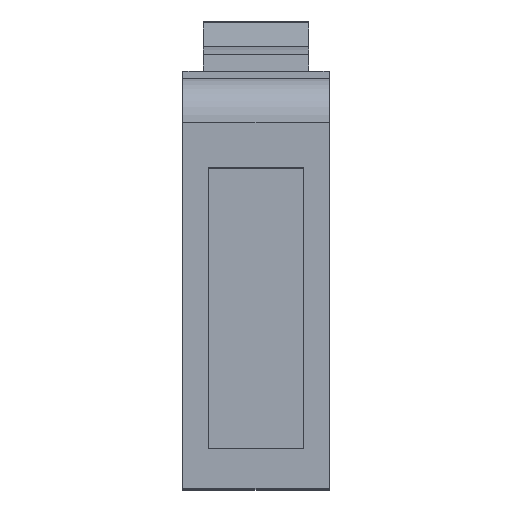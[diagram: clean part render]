
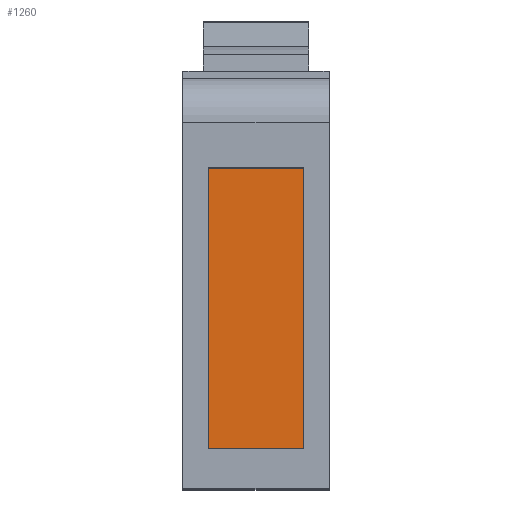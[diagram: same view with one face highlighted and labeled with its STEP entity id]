
A CAD part, top view. The second image highlights one B-rep face of the part: STEP entity #1260.
In plain terms, the highlighted planar face has unit normal (0, 0, 1).
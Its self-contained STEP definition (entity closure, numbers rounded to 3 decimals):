
#1171 = VERTEX_POINT ( 'NONE', #3416 ) ;
#1191 = EDGE_CURVE ( 'NONE', #1267, #4948, #3384, .T. ) ;
#1196 = EDGE_CURVE ( 'NONE', #1171, #1267, #3408, .T. ) ;
#1201 = EDGE_CURVE ( 'NONE', #4948, #1215, #3428, .T. ) ;
#1213 = EDGE_CURVE ( 'NONE', #1215, #1171, #3431, .T. ) ;
#1215 = VERTEX_POINT ( 'NONE', #3425 ) ;
#1237 = ORIENTED_EDGE ( 'NONE', *, *, #1191, .T. ) ;
#1251 = ORIENTED_EDGE ( 'NONE', *, *, #1213, .T. ) ;
#1253 = EDGE_LOOP ( 'NONE', ( #1251, #1257, #1237, #1254 ) ) ;
#1254 = ORIENTED_EDGE ( 'NONE', *, *, #1201, .T. ) ;
#1257 = ORIENTED_EDGE ( 'NONE', *, *, #1196, .T. ) ;
#1260 = ADVANCED_FACE ( 'NONE', ( #3484 ), #3496, .F. ) ;
#1267 = VERTEX_POINT ( 'NONE', #3451 ) ;
#3382 = VECTOR ( 'NONE', #3448, 1000. ) ;
#3383 = CARTESIAN_POINT ( 'NONE',  ( -3.25, 18.9, 12.3 ) ) ;
#3384 = LINE ( 'NONE', #3383, #3382 ) ;
#3408 = LINE ( 'NONE', #3440, #3439 ) ;
#3416 = CARTESIAN_POINT ( 'NONE',  ( 3.25, 18.9, 12.3 ) ) ;
#3422 = DIRECTION ( 'NONE',  ( 1., 0., 0. ) ) ;
#3423 = VECTOR ( 'NONE', #3422, 1000. ) ;
#3425 = CARTESIAN_POINT ( 'NONE',  ( 3.25, -0.3, 12.3 ) ) ;
#3427 = CARTESIAN_POINT ( 'NONE',  ( 3.25, -0.3, 12.3 ) ) ;
#3428 = LINE ( 'NONE', #3427, #3423 ) ;
#3430 = CARTESIAN_POINT ( 'NONE',  ( 3.25, 18.9, 12.3 ) ) ;
#3431 = LINE ( 'NONE', #3430, #3476 ) ;
#3438 = DIRECTION ( 'NONE',  ( -1., 0., 0. ) ) ;
#3439 = VECTOR ( 'NONE', #3438, 1000. ) ;
#3440 = CARTESIAN_POINT ( 'NONE',  ( 3.25, 18.9, 12.3 ) ) ;
#3448 = DIRECTION ( 'NONE',  ( 0., -1., 0. ) ) ;
#3451 = CARTESIAN_POINT ( 'NONE',  ( -3.25, 18.9, 12.3 ) ) ;
#3475 = DIRECTION ( 'NONE',  ( 0., 1., 0. ) ) ;
#3476 = VECTOR ( 'NONE', #3475, 1000. ) ;
#3481 = DIRECTION ( 'NONE',  ( 0., 0., -1. ) ) ;
#3482 = CARTESIAN_POINT ( 'NONE',  ( 3.25, -0.3, 12.3 ) ) ;
#3484 = FACE_OUTER_BOUND ( 'NONE', #1253, .T. ) ;
#3496 = PLANE ( 'NONE',  #3507 ) ;
#3507 = AXIS2_PLACEMENT_3D ( 'NONE', #3482, #3481, #3542 ) ;
#3542 = DIRECTION ( 'NONE',  ( -1., 0., 0. ) ) ;
#4101 = CARTESIAN_POINT ( 'NONE',  ( -3.25, -0.3, 12.3 ) ) ;
#4948 = VERTEX_POINT ( 'NONE', #4101 ) ;
